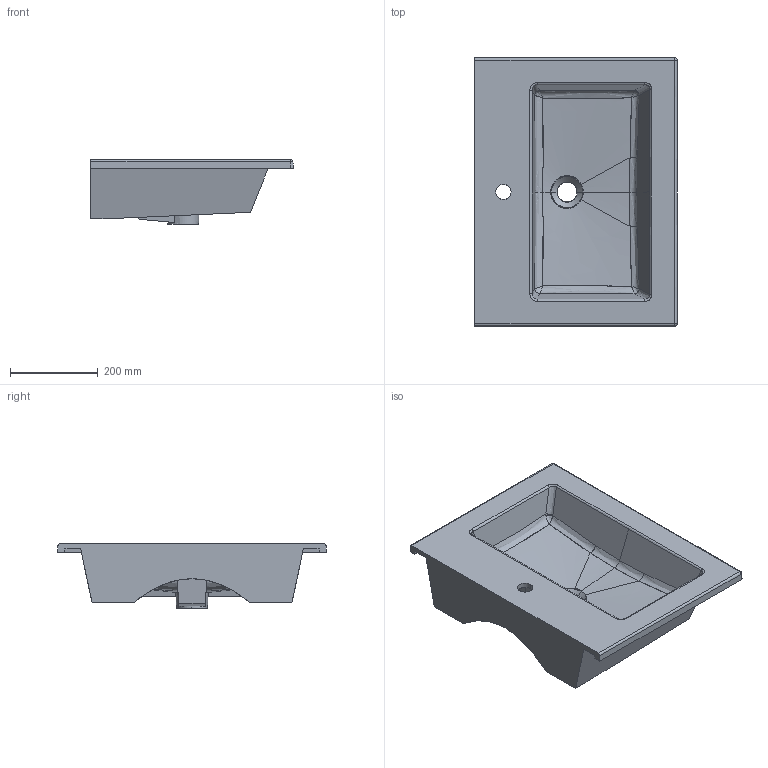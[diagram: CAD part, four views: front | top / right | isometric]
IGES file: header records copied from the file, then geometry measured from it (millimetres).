
Start section: START RECORD GO HERE.
Global section: file name: 7221.igs; native system: DASSAULT SYSTEMES CATIA V5 R19 - www.3ds.com; preprocessor: CATIA Version 5 Release 19 SP 5 ; author: gioge; organization: LAPTOP-G94B6G74; date: 20201002.170620; units: millimetre
Bounding box: 460.7 x 611.4 x 147.5 mm (x, y, z)
Surface area: 966195.8 mm2 (no closed solid volume)
Topology: 0 solids, 0 shells, 106 faces, 542 edges, 536 vertices
Faces by surface type: bspline 58, revolution 27, plane 19, extrusion 2
